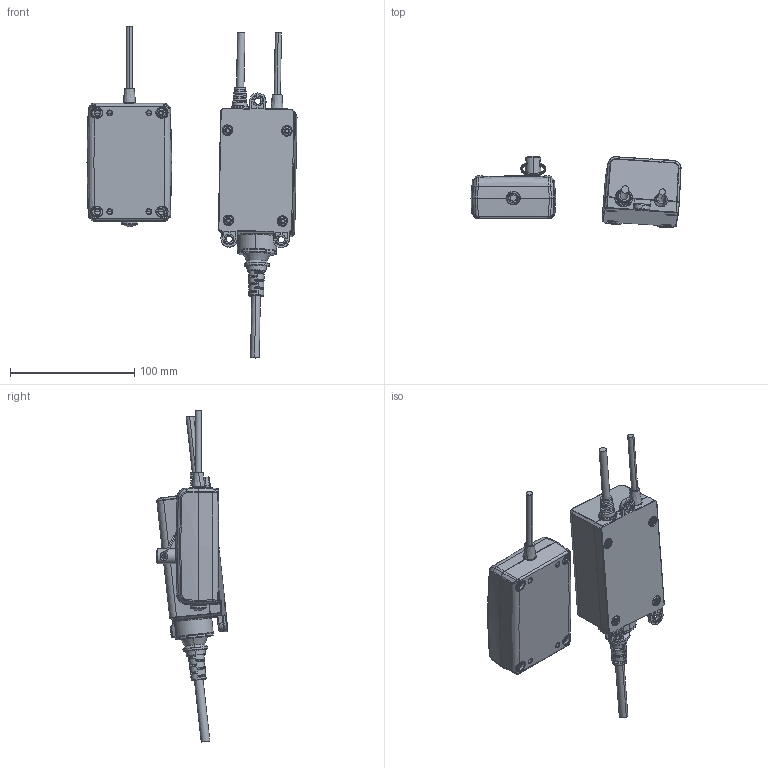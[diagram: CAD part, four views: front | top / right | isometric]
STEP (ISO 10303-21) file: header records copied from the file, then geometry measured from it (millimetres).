
FILE_DESCRIPTION (( 'STEP AP214' ), '1' );
FILE_NAME ('TEB2.STEP', '2015-06-01T06:40:12', ( '' ), ( '' ), 'SwSTEP 2.0', 'SolidWorks 2010', '' );
FILE_SCHEMA (( 'AUTOMOTIVE_DESIGN' ));
Length unit declared in the file: millimetre
Products named in the file (1): TEB2
Bounding box: 169.12 x 57.49 x 267.36 mm (x, y, z)
Surface area: 61710.6 mm2 (no closed solid volume)
Topology: 0 solids, 18 shells, 800 faces, 2340 edges, 1531 vertices
Faces by surface type: plane 248, cylinder 225, bspline 165, torus 90, cone 38, sphere 34
Entity records: 59199 total; most frequent: CARTESIAN_POINT 30817, ORIENTED_EDGE 4196, DIRECTION 3695, EDGE_CURVE 2328, VERTEX_POINT 1531, AXIS2_PLACEMENT_3D 1446, EDGE_LOOP 866, CIRCLE 810
